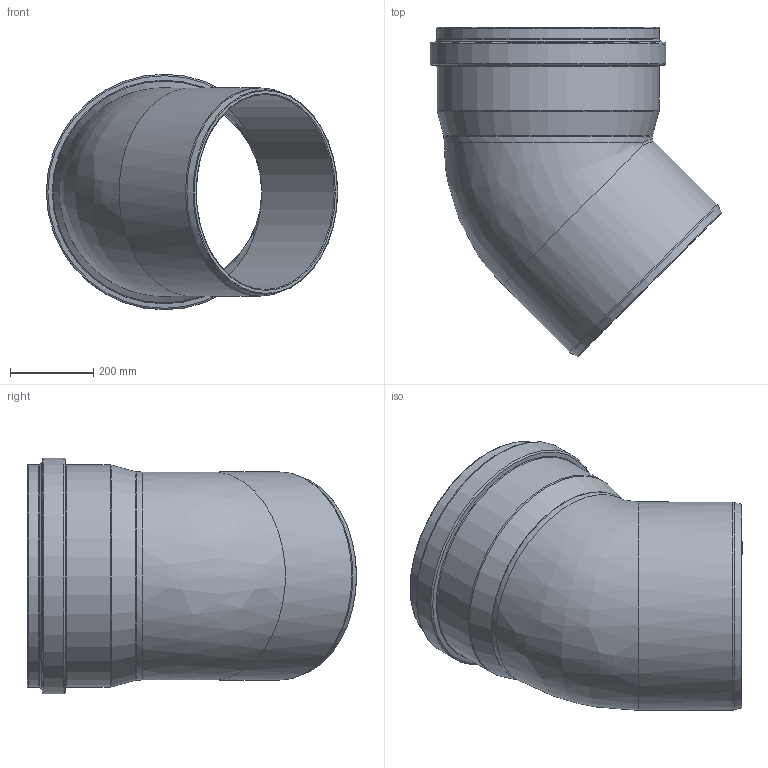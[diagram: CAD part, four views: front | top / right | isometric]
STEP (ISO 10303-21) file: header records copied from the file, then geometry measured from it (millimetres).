
FILE_DESCRIPTION(/* description */ (''),/* implementation_level */ '2;1');
FILE_NAME(/* name */ '771120z.stp',/* time_stamp */ '2025-03-05T10:37:35+01:00',/* author */ ('corinna'),/* organization */ (''),/* preprocessor_version */ 'ST-DEVELOPER v20',/* originating_system */ 'Autodesk Inventor 2024',/* authorisation */ '');
FILE_SCHEMA (('AUTOMOTIVE_DESIGN { 1 0 10303 214 3 1 1 }'));
Length unit declared in the file: millimetre
Products named in the file (1): 771120z
Bounding box: 699.36 x 790.11 x 565.5 mm (x, y, z)
Volume: 17020477.2 mm3; surface area: 2337651 mm2
Topology: 1 solids, 1 shells, 47 faces, 131 edges, 85 vertices
Faces by surface type: torus 20, cylinder 11, cone 10, bspline 3, plane 3
Full cylindrical faces by diameter (mm): 468.5 x2, 500.5 x2, 503 x1, 503.5 x2, 533 x1, 533.5 x1, 535.5 x1, 565.5 x1
Entity records: 1728 total; most frequent: CARTESIAN_POINT 393, DIRECTION 323, ORIENTED_EDGE 258, AXIS2_PLACEMENT_3D 151, EDGE_CURVE 129, CIRCLE 102, VERTEX_POINT 85, EDGE_LOOP 50
